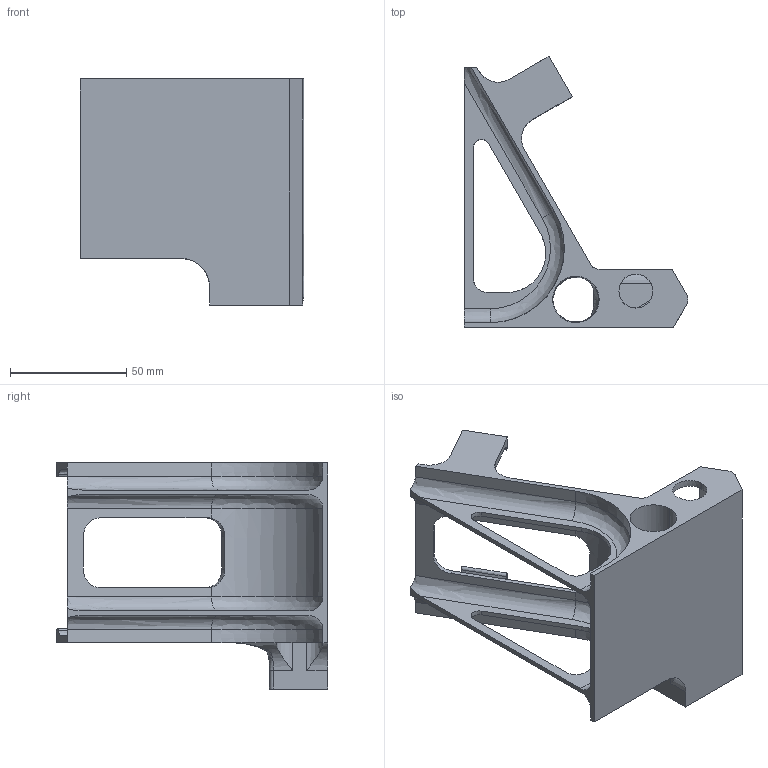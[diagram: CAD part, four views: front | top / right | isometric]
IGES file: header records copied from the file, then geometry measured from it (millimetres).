
Start section:  PTC IGES file: meterstand.igs
Global section: file name: meterstand.igs; native system: Creo Parametric by Parametric Technology Corporation; preprocessor: 2013320; author: tjoshua; organization: Unknown; date: 20141107.125555; units: millimetre
Bounding box: 96.38 x 116.64 x 97.3 mm (x, y, z)
Volume: 110313.6 mm3; surface area: 49998.3 mm2
Topology: 1 solids, 1 shells, 152 faces, 409 edges, 261 vertices
Faces by surface type: bspline 152
